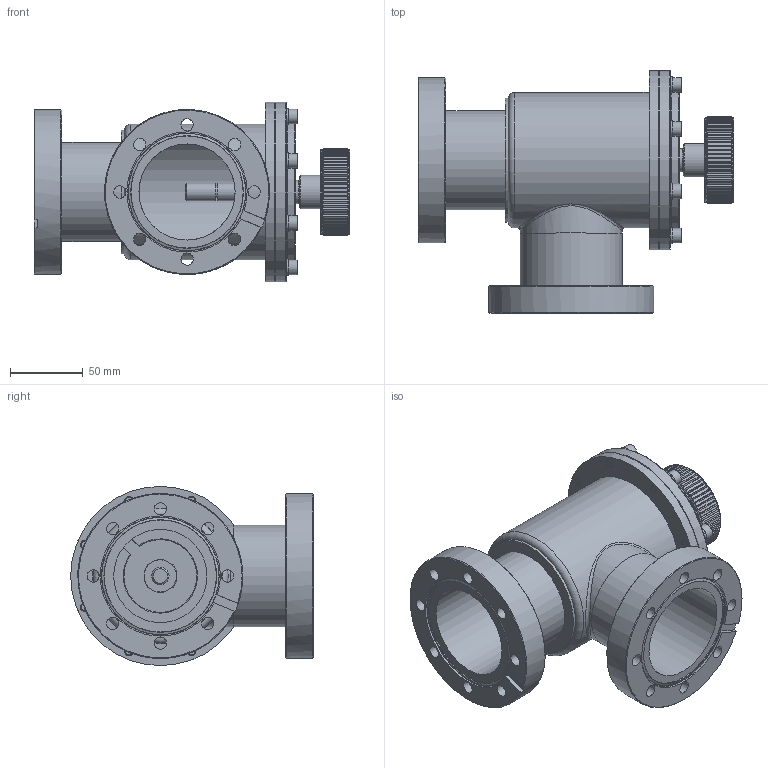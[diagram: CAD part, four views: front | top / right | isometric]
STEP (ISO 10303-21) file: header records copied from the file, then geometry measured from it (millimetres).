
FILE_DESCRIPTION(/* description */ (''),/* implementation_level */ '2;1');
FILE_NAME(/* name */ '1013252526_203.stp',/* time_stamp */ '2013-08-21T15:45:30+02:00',/* author */ (''),/* organization */ (''),/* preprocessor_version */ 'ST-DEVELOPER v11',/* originating_system */ 'SIEMENS PLM Software NX 7.5',/* authorisation */ '');
FILE_SCHEMA (('AP203_CONFIGURATION_CONTROLLED_3D_DESIGN_OF_MECHANICAL_PARTS_AND_ASSEMBLIES_MIM_LF'));
Length unit declared in the file: millimetre
Products named in the file (14): 521673_17904ID; 521665; 521644; 521643_17906ID; 206560.1; 206559.1; n-6134-408; 245913; 224809.1; 322298.2; 254941.4; 521678_MODEL; 525970; 705208
Assembly tree (30 placements, depth 4):
  705208
    254941.4
    322298.2
    224809.1  x9
    245913
    n-6134-408  x8
    525970
      206559.1  x2
      206560.1  x2
      521678_MODEL
        521643_17906ID
        521644
        521665
        521673_17904ID
Bounding box: 216.8 x 166.5 x 123 mm (x, y, z)
Volume: 521527.3 mm3; surface area: 262004 mm2
Topology: 46 solids, 46 shells, 793 faces, 1690 edges, 1026 vertices
Faces by surface type: plane 356, cylinder 238, cone 178, torus 11, bspline 10
Full cylindrical faces by diameter (mm): 4.96 x9, 5 x17, 6 x18, 6.2 x8, 6.4 x8, 8 x2, 8.4 x16, 10 x10, 11 x8, 12 x3, 12.04 x1, 15.957 x1, 16 x3, 16.05 x1, 16.2 x1, 19 x1, 23 x1, 50 x1, 58 x2, 64 x1, 66 x2, 68 x1, 70 x2, 74.3 x2, 80.5 x4, 80.8 x4, 82.8 x1, 83 x1, 83.2 x2, 85 x1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
Entity records: 18941 total; most frequent: CARTESIAN_POINT 4233, DIRECTION 2580, ORIENTED_EDGE 2312, EDGE_CURVE 1156, AXIS2_PLACEMENT_3D 1129, EDGE_LOOP 797, VERTEX_POINT 746, ADVANCED_FACE 584
